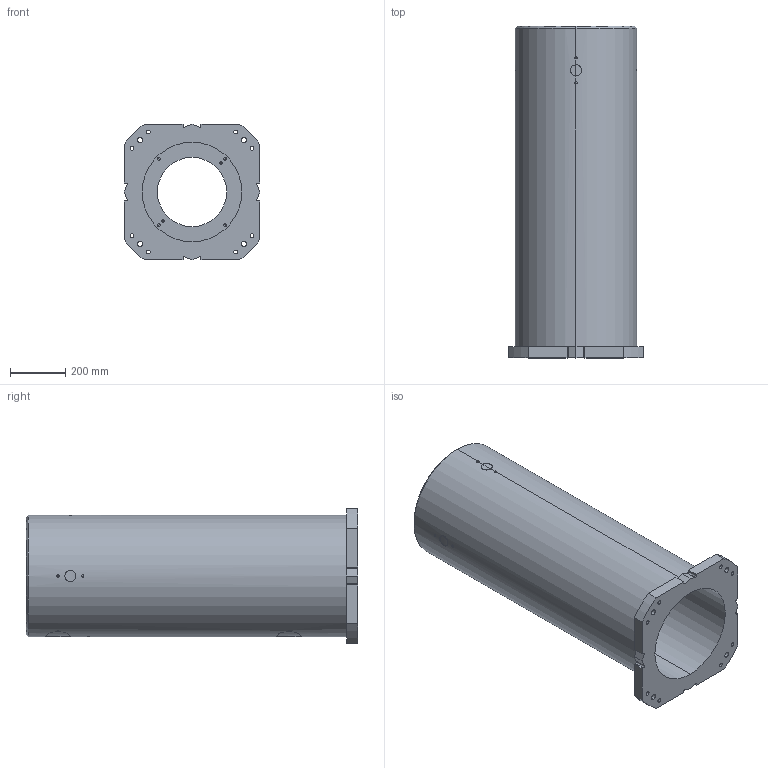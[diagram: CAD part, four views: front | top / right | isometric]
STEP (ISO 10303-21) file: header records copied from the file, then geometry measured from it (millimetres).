
FILE_DESCRIPTION (( 'STEP AP214' ), '1' );
FILE_NAME ('G-1200.STEP', '2025-12-05T13:20:54', ( '' ), ( '' ), 'SwSTEP 2.0', 'SolidWorks 2022', '' );
FILE_SCHEMA (( 'AUTOMOTIVE_DESIGN' ));
Length unit declared in the file: millimetre
Products named in the file (1): G-1200
Bounding box: 490 x 1200 x 490 mm (x, y, z)
Volume: 65165630.1 mm3; surface area: 3403632.7 mm2
Topology: 1 solids, 1 shells, 175 faces, 473 edges, 308 vertices
Faces by surface type: cylinder 113, plane 28, bspline 24, cone 10
Entity records: 11233 total; most frequent: CARTESIAN_POINT 6338, ORIENTED_EDGE 930, DIRECTION 741, EDGE_CURVE 465, VERTEX_POINT 308, AXIS2_PLACEMENT_3D 278, EDGE_LOOP 221, VECTOR 185
